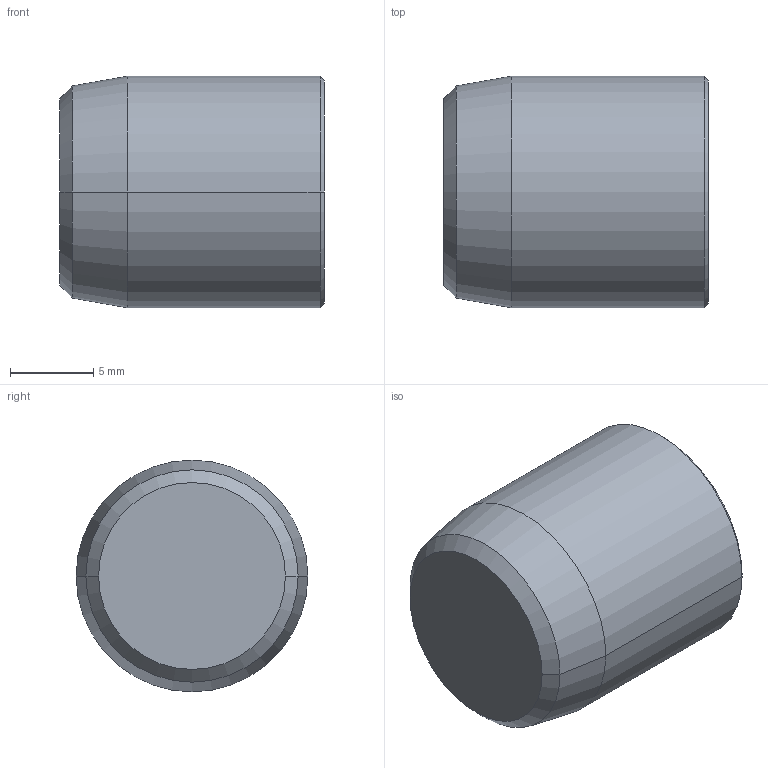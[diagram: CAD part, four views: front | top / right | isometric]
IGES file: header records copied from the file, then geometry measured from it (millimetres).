
Start section:  PTC IGES file: bb62.igs
Global section: file name: bb62.igs; native system: Pro/ENGINEER by Parametric Technology Corporation; preprocessor: 2002350; author: chant; organization: Unknown; date: 070705.145050; units: inch
Bounding box: 15.88 x 13.9 x 13.9 mm (x, y, z)
Surface area: 958.5 mm2 (no closed solid volume)
Topology: 0 solids, 0 shells, 13 faces, 65 edges, 75 vertices
Faces by surface type: revolution 10, bspline 3
